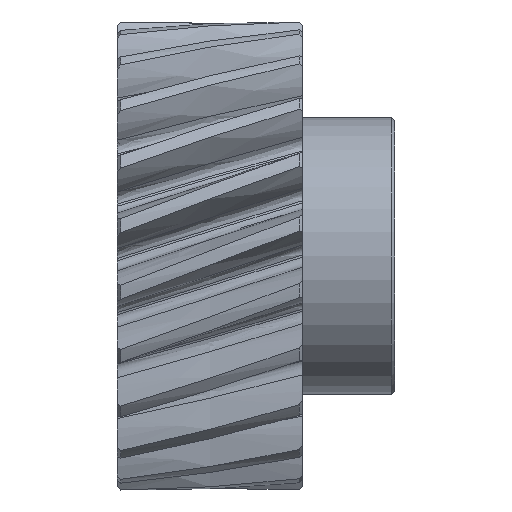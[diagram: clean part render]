
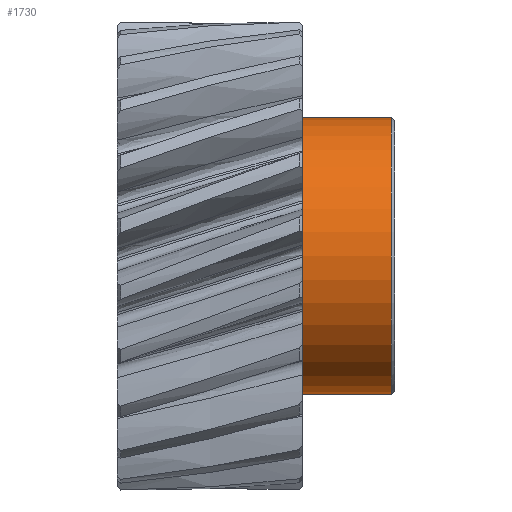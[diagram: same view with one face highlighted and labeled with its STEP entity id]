
A CAD part, front view. The second image highlights one B-rep face of the part: STEP entity #1730.
In plain terms, the highlighted cylindrical face has radius 22.5 mm (diameter 45 mm), a full revolution.
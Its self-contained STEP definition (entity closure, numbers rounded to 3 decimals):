
#1730=ADVANCED_FACE('',(#6946,#6948),#6950,.T.);
#6946=FACE_OUTER_BOUND('',#6947,.T.);
#6947=EDGE_LOOP('',(#8076));
#6948=FACE_OUTER_BOUND('',#6949,.T.);
#6949=EDGE_LOOP('',(#8077));
#6950=CYLINDRICAL_SURFACE('',#6951,22.5);
#6951=AXIS2_PLACEMENT_3D('',#6952,#6953,#6954);
#6952=CARTESIAN_POINT('',(30.,0.,0.));
#6953=DIRECTION('',(1.,0.,0.));
#6954=DIRECTION('',(0.,0.,1.));
#8076=ORIENTED_EDGE('',*,*,#8595,.F.);
#8077=ORIENTED_EDGE('',*,*,#8619,.T.);
#8595=EDGE_CURVE('',#9519,#9519,#9520,.T.);
#8619=EDGE_CURVE('',#9544,#9544,#9545,.T.);
#9519=VERTEX_POINT('',#12629);
#9520=CIRCLE('',#12630,22.5);
#9544=VERTEX_POINT('',#12726);
#9545=CIRCLE('',#12727,22.5);
#12629=CARTESIAN_POINT('',(44.5,0.,22.5));
#12630=AXIS2_PLACEMENT_3D('',#12631,#12632,#12633);
#12631=CARTESIAN_POINT('',(44.5,0.,0.));
#12632=DIRECTION('',(1.,0.,-0.));
#12633=DIRECTION('',(0.,0.,1.));
#12726=CARTESIAN_POINT('',(30.,0.,22.5));
#12727=AXIS2_PLACEMENT_3D('',#12728,#12729,#12730);
#12728=CARTESIAN_POINT('',(30.,0.,0.));
#12729=DIRECTION('',(1.,-0.,-0.));
#12730=DIRECTION('',(-0.,-0.,1.));
